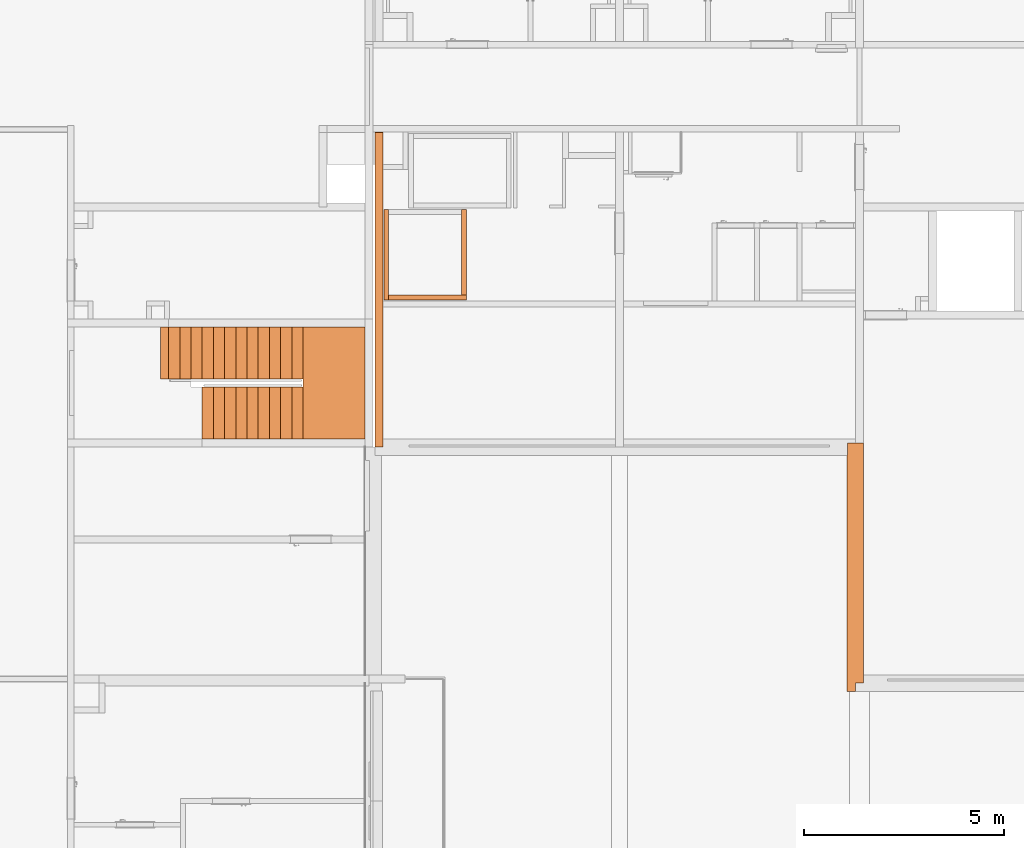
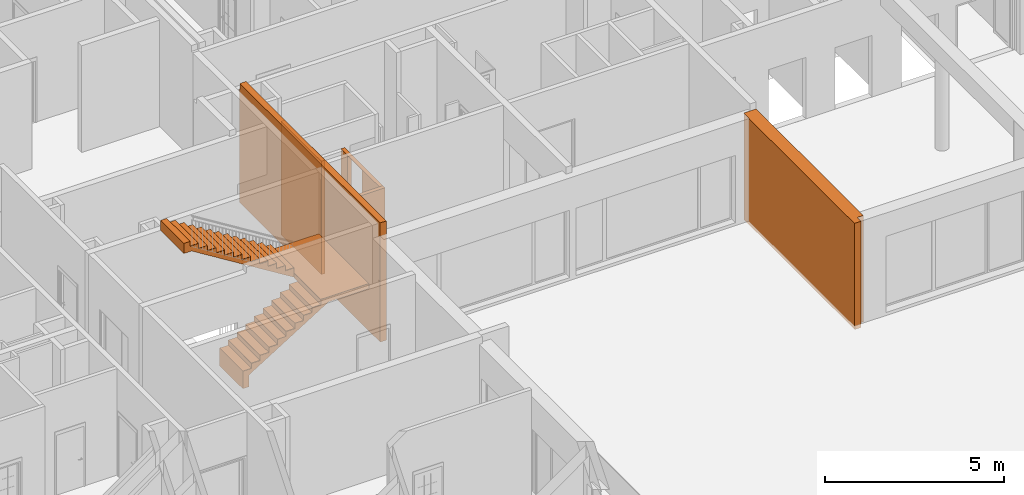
# One storey, part 32 of 46: 6 proxies, 1 opening.
"""IFC2X3 building model written with IfcOpenShell, lengths in millimetres."""

from ifc_helpers import new_model, entity, si_unit, converted_unit, derived_unit, money_unit, direction, frame, origin_with_axes, origin_2d_with_axis, place, context, subcontext, project, spatial, rectangle, extrude, faceted_brep, material, material_list, type_object, element, save


model = new_model("IFC2X3")

# Units and contexts
model_context = context("Model", 3, precision=0.01, world=origin_with_axes(), true_north=direction((0.34421633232, 0.938890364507)))
body_context = subcontext(model_context, "Body", "Model", "MODEL_VIEW")
ifc_project = project(units=[si_unit("LENGTHUNIT", "METRE", prefix="MILLI"), si_unit("AREAUNIT", "SQUARE_METRE"), si_unit("VOLUMEUNIT", "CUBIC_METRE"), converted_unit("PLANEANGLEUNIT", "DEGREE", entity("IfcPlaneAngleMeasure", 0.0174532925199), si_unit("PLANEANGLEUNIT", "RADIAN"), dimensions=[0, 0, 0, 0, 0, 0, 0]), si_unit("SOLIDANGLEUNIT", "STERADIAN"), money_unit("USD"), converted_unit("TIMEUNIT", "Year", entity("IfcTimeMeasure", 31556926.0), si_unit("TIMEUNIT", "SECOND"), dimensions=[0, 0, 1, 0, 0, 0, 0]), si_unit("MASSUNIT", "GRAM", prefix="KILO"), si_unit("THERMODYNAMICTEMPERATUREUNIT", "DEGREE_CELSIUS"), si_unit("LUMINOUSINTENSITYUNIT", "LUMEN"), si_unit("ENERGYUNIT", "JOULE", prefix="MEGA"), derived_unit("THERMALCONDUCTANCEUNIT", [(si_unit("POWERUNIT", "WATT"), 1), (si_unit("LENGTHUNIT", "METRE"), -1), (si_unit("THERMODYNAMICTEMPERATUREUNIT", "KELVIN"), -1)]), derived_unit("SPECIFICHEATCAPACITYUNIT", [(si_unit("ENERGYUNIT", "JOULE"), 1), (si_unit("MASSUNIT", "GRAM", prefix="KILO"), -1), (si_unit("THERMODYNAMICTEMPERATUREUNIT", "KELVIN"), -1)]), derived_unit("MASSDENSITYUNIT", [(si_unit("MASSUNIT", "GRAM", prefix="KILO"), 1), (si_unit("VOLUMEUNIT", "CUBIC_METRE"), -1)])], contexts=[model_context])

# Site, building, storey
site_placement = place(None, origin_with_axes())
site = spatial("IfcSite", under=ifc_project, at=site_placement, Name="USTRONIE MORSKIE", CompositionType="ELEMENT")
building_placement = place(site_placement, origin_with_axes())
building = spatial("IfcBuilding", under=site, at=building_placement, Name="Budynek", CompositionType="ELEMENT")
storey_placement = place(building_placement, origin_with_axes())
storey = spatial("IfcBuildingStorey", under=building, at=storey_placement, Name="PARTER", CompositionType="ELEMENT", Elevation=0.0)

# Proxy, opening
ifc_material_1 = material(Name="Bloczki silikatowe")
building_element_proxy_type_1 = type_object("IfcBuildingElementProxyType", Name="Bloczki silikatowe 120", PredefinedType="NOTDEFINED")
proxy_1_placement = place(storey_placement, frame((369497.920919, 730471.199036, -229.999731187), z_axis=(0.0, 0.0, 1.0), x_axis=(0.0, 1.0, 0.0)))
proxy_1 = element("IfcBuildingElementProxy", 1, at=proxy_1_placement, inside=storey, type_object=building_element_proxy_type_1, material=ifc_material_1, Name="SW-04", context=body_context, shape_type="Brep", body=[
    faceted_brep([(2260.0, 120.0, 0.0), (2260.0, 3.41060513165e-10, 0.0), (120.0, 0.0, 0.0), (120.0, 120.0, 0.0), (2260.0, 120.0, 2249.99973119), (2260.0, 3.41060513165e-10, 2249.99973119), (120.0, 0.0, 2249.99973119), (120.0, 120.0, 2249.99973119)], [[[0, 1, 2, 3]], [[1, 0, 4, 5]], [[1, 5, 6, 2]], [[7, 3, 2, 6]], [[4, 0, 3, 7]], [[5, 4, 7, 6]]]),
])
opening_placement = place(proxy_1_placement, frame((1490.0, -2.27373675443e-10, 229.999731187), z_axis=(0.0, 0.0, 1.0), x_axis=(1.0, 0.0, 0.0)))
element("IfcOpeningElement", 2, at=opening_placement, cuts=proxy_1, Name="xx", context=body_context, shape_type="SweptSolid", body=[
    extrude(rectangle(XDim=800.0, YDim=2000.0, at=origin_2d_with_axis()), frame((0.0, 2.27373675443e-10, 1000.0), z_axis=(0.0, 1.0, 0.0), x_axis=(1.0, 0.0, 0.0)), (0.0, 0.0, -1.0), 120.0),
    extrude(rectangle(XDim=800.0, YDim=2000.0, at=origin_2d_with_axis()), frame((0.0, 2.27373675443e-10, 1000.0), z_axis=(0.0, -1.0, 0.0), x_axis=(1.0, 0.0, 0.0)), (0.0, 0.0, -1.0), 120.0),
])

# Proxies
proxy_2_placement = place(storey_placement, frame((367437.920919, 730471.199036, -229.999731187), z_axis=(0.0, 0.0, 1.0), x_axis=(1.0, 0.0, 0.0)))
element("IfcBuildingElementProxy", 3, at=proxy_2_placement, inside=storey, type_object=building_element_proxy_type_1, material=ifc_material_1, Name="SW-04", context=body_context, shape_type="Brep", body=[
    faceted_brep([(2060.0, 120.000000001, 0.0), (2060.0, 5.68434188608e-10, 0.0), (120.0, 0.0, 0.0), (120.0, 120.0, 0.0), (2060.0, 120.000000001, 2249.99973119), (2060.0, 5.68434188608e-10, 2249.99973119), (120.0, 0.0, 2249.99973119), (120.0, 120.0, 2249.99973119)], [[[0, 1, 2, 3]], [[1, 0, 4, 5]], [[1, 5, 6, 2]], [[7, 3, 2, 6]], [[4, 0, 3, 7]], [[5, 4, 7, 6]]]),
])
proxy_3_placement = place(storey_placement, frame((367437.920919, 732731.199036, -230.0), z_axis=(0.0, 0.0, 1.0), x_axis=(0.0, -1.0, 0.0)))
element("IfcBuildingElementProxy", 4, at=proxy_3_placement, inside=storey, type_object=building_element_proxy_type_1, material=ifc_material_1, Name="SW-04", context=body_context, shape_type="Brep", body=[
    faceted_brep([(2260.0, 120.0, 0.0), (5.68434188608e-10, 120.0, 0.0), (5.68434188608e-10, 120.0, 2250.0), (0.0, 120.0, 3870.0), (2260.0, 120.0, 3870.0), (2260.0, 120.0, 2250.0), (2260.0, 3.97903932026e-10, 0.0), (5.68434188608e-10, 0.0, 0.0), (5.68434188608e-10, 0.0, 2250.0), (0.0, 0.0, 3870.0), (2260.0, 3.97903932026e-10, 3870.0), (2260.0, 3.97903932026e-10, 2250.0)], [[[0, 1, 2, 3, 4, 5]], [[6, 7, 1, 0]], [[7, 8, 2, 1]], [[3, 2, 8, 9]], [[9, 10, 4, 3]], [[10, 11, 5, 4]], [[6, 0, 5, 11]], [[9, 8, 7, 6, 11, 10]]]),
])
ifc_material_2 = material(Name="Beton konstrukcyjny B25")
ifc_material_3 = material(Name="Płytki podłogowe")
ifc_material_list_1 = material_list([ifc_material_2, ifc_material_2, ifc_material_2, ifc_material_3, ifc_material_3, ifc_material_3, ifc_material_3, ifc_material_3, ifc_material_3, ifc_material_3, ifc_material_3, ifc_material_3, ifc_material_3, ifc_material_3, ifc_material_3, ifc_material_3, ifc_material_3, ifc_material_3, ifc_material_3, ifc_material_3, ifc_material_3, ifc_material_3, ifc_material_3, ifc_material_3, ifc_material_3])
building_element_proxy_type_2 = type_object("IfcBuildingElementProxyType", Name="Typ schodów", PredefinedType="NOTDEFINED")
proxy_4_placement = place(storey_placement, frame((362896.181789, 727001.199036, 0.0), z_axis=(0.0, 0.0, 1.0), x_axis=(1.0, 0.0, 0.0)))
element("IfcBuildingElementProxy", 5, at=proxy_4_placement, inside=storey, type_object=building_element_proxy_type_2, material=ifc_material_list_1, Name="SCH2", context=body_context, shape_type="Brep", body=[
    faceted_brep([(2520.0, 1299.99999404, 1550.2173913), (2240.0, 1300.0, 1550.2173913), (2240.0, 0.0, 1550.2173913), (2520.0, 0.0, 1550.2173913), (2520.0, 1299.99999404, 1564.13043478), (2769.83401879, 1299.99999404, 1564.13043478), (2520.0, 1299.99999404, 1408.95401591), (2426.66666667, 1300.0, 1350.98300141), (2333.33333333, 1300.0, 1293.01198692), (2240.0, 1300.0, 1235.04097243), (2146.66666667, 1300.0, 1177.06995793), (2053.33333333, 1300.0, 1119.09894344), (1960.0, 1300.0, 1061.12792895), (1866.66666667, 1300.0, 1003.15691446), (1773.33333333, 1300.0, 945.185899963), (1680.0, 1300.0, 887.214885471), (1586.66666667, 1300.0, 829.243870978), (1493.33333333, 1300.0, 771.272856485), (1400.0, 1300.0, 713.301841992), (1306.66666667, 1300.0, 655.3308275), (1213.33333333, 1300.0, 597.359813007), (1120.0, 1300.0, 539.388798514), (1026.66666667, 1300.0, 481.417784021), (933.333333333, 1300.0, 423.446769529), (840.0, 1300.0, 365.475755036), (746.666666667, 1300.0, 307.504740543), (653.333333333, 1300.0, 249.53372605), (560.0, 1300.0, 191.562711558), (466.666666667, 1300.0, 133.591697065), (373.333333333, 1300.0, 75.620682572), (280.0, 1300.0, 17.6496680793), (200.0, 1300.0, -32.0397729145), (200.0, 1300.0, -430.0), (0.0, 1300.0, -430.0), (0.0, 1300.0, -156.263375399), (0.0, 1300.0, 158.913043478), (280.0, 1300.0, 158.913043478), (280.0, 1300.0, 332.826086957), (560.0, 1300.0, 332.826086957), (560.0, 1300.0, 506.739130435), (840.0, 1300.0, 506.739130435), (840.0, 1300.0, 680.652173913), (1120.0, 1300.0, 680.652173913), (1120.0, 1300.0, 854.565217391), (1400.0, 1300.0, 854.565217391), (1400.0, 1300.0, 1028.47826087), (1680.0, 1300.0, 1028.47826087), (1680.0, 1300.0, 1202.39130435), (1960.0, 1300.0, 1202.39130435), (1960.0, 1300.0, 1376.30434783), (2240.0, 1300.0, 1376.30434783), (2240.0, 0.0, 1376.30434783), (2520.0, 0.0, 1408.95401591), (2769.83401879, 0.0, 1564.13043478), (2520.0, 0.0, 1564.13043478), (1960.0, 0.0, 1376.30434783), (1960.0, 0.0, 1202.39130435), (1680.0, 0.0, 1202.39130435), (1680.0, 0.0, 1028.47826087), (1400.0, 0.0, 1028.47826087), (1400.0, 0.0, 854.565217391), (1120.0, 0.0, 854.565217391), (1120.0, 0.0, 680.652173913), (840.0, 0.0, 680.652173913), (840.0, 0.0, 506.739130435), (560.0, 0.0, 506.739130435), (560.0, 0.0, 332.826086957), (280.0, 0.0, 332.826086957), (280.0, 0.0, 158.913043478), (0.0, 0.0, 158.913043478), (0.0, 0.0, -156.263375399), (0.0, 0.0, -430.0), (200.0, 0.0, -430.0), (200.0, 0.0, -32.0397729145), (280.0, 0.0, 17.6496680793), (373.333333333, 0.0, 75.620682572), (466.666666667, 0.0, 133.591697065), (560.0, 0.0, 191.562711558), (653.333333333, 0.0, 249.53372605), (746.666666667, 0.0, 307.504740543), (840.0, 0.0, 365.475755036), (933.333333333, 0.0, 423.446769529), (1026.66666667, 0.0, 481.417784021), (1120.0, 0.0, 539.388798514), (1213.33333333, 0.0, 597.359813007), (1306.66666667, 0.0, 655.3308275), (1400.0, 0.0, 713.301841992), (1493.33333333, 0.0, 771.272856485), (1586.66666667, 0.0, 829.243870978), (1680.0, 0.0, 887.214885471), (1773.33333333, 0.0, 945.185899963), (1866.66666667, 0.0, 1003.15691446), (1960.0, 0.0, 1061.12792895), (2053.33333333, 0.0, 1119.09894344), (2146.66666667, 0.0, 1177.06995793), (2240.0, 0.0, 1235.04097243), (2333.33333333, 0.0, 1293.01198692), (2426.66666667, 0.0, 1350.98300141)], [[[0, 1, 2, 3]], [[0, 4, 5, 6, 7, 8, 9, 10, 11, 12, 13, 14, 15, 16, 17, 18, 19, 20, 21, 22, 23, 24, 25, 26, 27, 28, 29, 30, 31, 32, 33, 34, 35, 36, 37, 38, 39, 40, 41, 42, 43, 44, 45, 46, 47, 48, 49, 50, 1]], [[50, 51, 2, 1]], [[52, 53, 54, 3, 2, 51, 55, 56, 57, 58, 59, 60, 61, 62, 63, 64, 65, 66, 67, 68, 69, 70, 71, 72, 73, 74, 75, 76, 77, 78, 79, 80, 81, 82, 83, 84, 85, 86, 87, 88, 89, 90, 91, 92, 93, 94, 95, 96, 97]], [[3, 54, 4, 0]], [[54, 53, 5, 4]], [[6, 5, 53, 52, 97, 7]], [[7, 97, 96, 8]], [[8, 96, 95, 9]], [[9, 95, 94, 10]], [[10, 94, 93, 11]], [[11, 93, 92, 12]], [[12, 92, 91, 13]], [[13, 91, 90, 14]], [[14, 90, 89, 15]], [[15, 89, 88, 16]], [[16, 88, 87, 17]], [[17, 87, 86, 18]], [[18, 86, 85, 19]], [[19, 85, 84, 20]], [[20, 84, 83, 21]], [[21, 83, 82, 22]], [[22, 82, 81, 23]], [[23, 81, 80, 24]], [[24, 80, 79, 25]], [[25, 79, 78, 26]], [[26, 78, 77, 27]], [[27, 77, 76, 28]], [[28, 76, 75, 29]], [[29, 75, 74, 30]], [[30, 74, 73, 31]], [[72, 32, 31, 73]], [[72, 71, 33, 32]], [[33, 71, 70, 34]], [[69, 35, 34, 70]], [[68, 36, 35, 69]], [[36, 68, 67, 37]], [[66, 38, 37, 67]], [[38, 66, 65, 39]], [[64, 40, 39, 65]], [[40, 64, 63, 41]], [[62, 42, 41, 63]], [[42, 62, 61, 43]], [[60, 44, 43, 61]], [[44, 60, 59, 45]], [[58, 46, 45, 59]], [[46, 58, 57, 47]], [[56, 48, 47, 57]], [[48, 56, 55, 49]], [[51, 50, 49, 55]]]),
    faceted_brep([(2551.90509143, 1500.00000596, 1724.13043478), (2521.73911022, 1500.00000596, 1724.13043478), (2521.73911022, 1299.99999404, 1724.13043478), (2520.0, 1299.99999404, 1724.13043478), (2520.0, 0.0, 1724.13043478), (4071.73914002, 0.0, 1724.13043478), (4071.73914002, 2800.0, 1724.13043478), (2551.90509143, 2800.0, 1724.13043478), (2551.90509143, 1500.00000596, 1564.13043478), (2521.73911022, 1500.00000596, 1564.13043478), (2521.73911022, 1299.99999404, 1564.13043478), (2520.0, 1299.99999404, 1564.13043478), (2520.0, 0.0, 1564.13043478), (4071.73914002, 0.0, 1564.13043478), (4071.73914002, 2800.0, 1564.13043478), (2551.90509143, 2800.0, 1564.13043478)], [[[0, 1, 2, 3, 4, 5, 6, 7]], [[0, 8, 9, 1]], [[9, 10, 2, 1]], [[3, 2, 10, 11]], [[4, 3, 11, 12]], [[5, 4, 12, 13]], [[6, 5, 13, 14]], [[7, 6, 14, 15]], [[7, 15, 8, 0]], [[8, 15, 14, 13, 12, 11, 10, 9]]]),
    faceted_brep([(-744.927536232, 2800.0, 3611.85256663), (-744.927536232, 1500.0, 3611.85256663), (-790.244903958, 1500.0, 3640.0), (-790.244903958, 2800.0, 3640.0), (-651.594202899, 1500.0, 3553.88155214), (-651.594202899, 2800.0, 3553.88155214), (-558.260869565, 1500.0, 3495.91053764), (-464.927536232, 1500.0, 3437.93952315), (-371.594202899, 1500.0, 3379.96850866), (-278.260869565, 1500.0, 3321.99749417), (-184.927536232, 1500.0, 3264.02647967), (-91.5942028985, 1500.0, 3206.05546518), (1.73913043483, 1500.0, 3148.08445069), (95.0724637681, 1500.0, 3090.1134362), (188.405797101, 1500.0, 3032.1424217), (281.739130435, 1500.0, 2974.17140721), (375.072463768, 1500.0, 2916.20039272), (468.405797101, 1500.0, 2858.22937822), (561.739130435, 1500.0, 2800.25836373), (655.072463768, 1500.0, 2742.28734924), (748.405797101, 1500.0, 2684.31633475), (841.739130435, 1500.0, 2626.34532025), (935.072463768, 1500.0, 2568.37430576), (1028.4057971, 1500.0, 2510.40329127), (1121.73913043, 1500.0, 2452.43227677), (1215.07246377, 1500.0, 2394.46126228), (1308.4057971, 1500.0, 2336.49024779), (1401.73913043, 1500.0, 2278.5192333), (1495.07246377, 1500.0, 2220.5482188), (1588.4057971, 1500.0, 2162.57720431), (1681.73913043, 1500.0, 2104.60618982), (1775.07246377, 1500.0, 2046.63517532), (1868.4057971, 1500.0, 1988.66416083), (1961.73913043, 1500.0, 1930.69314632), (2055.07246377, 1500.0, 1872.72213178), (2148.4057971, 1500.0, 1814.75111723), (2241.73913043, 1500.0, 1756.78010265), (2335.07246327, 1500.0, 1698.80908826), (2428.40579611, 1500.0, 1640.83807383), (2521.73911022, 1500.00000596, 1582.86707101), (2551.90509143, 1500.00000596, 1564.13043672), (2551.90509143, 1500.00000596, 1724.13043478), (2521.73911022, 1500.00000596, 1724.13043478), (2521.73912894, 1500.0, 1898.04347826), (2241.73913043, 1500.0, 1898.04347826), (2241.73913043, 1500.0, 2071.95652174), (1961.73913043, 1500.0, 2071.95652174), (1961.73913043, 1500.0, 2245.86956522), (1681.73913043, 1500.0, 2245.86956522), (1681.73913043, 1500.0, 2419.7826087), (1401.73913043, 1500.0, 2419.7826087), (1401.73913043, 1500.0, 2593.69565217), (1121.73913043, 1500.0, 2593.69565217), (1121.73913043, 1500.0, 2767.60869565), (841.739130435, 1500.0, 2767.60869565), (841.739130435, 1500.0, 2941.52173913), (561.739130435, 1500.0, 2941.52173913), (561.739130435, 1500.0, 3115.43478261), (281.739130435, 1500.0, 3115.43478261), (281.739130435, 1500.0, 3289.34782609), (1.73913043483, 1500.0, 3289.34782609), (1.73913043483, 1500.0, 3463.26086957), (-278.260869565, 1500.0, 3463.26086957), (-278.260869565, 1500.0, 3637.17391304), (-558.260869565, 1500.0, 3637.17391304), (-558.260869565, 1500.0, 3811.08695652), (-838.260869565, 1500.0, 3811.08695652), (-838.260869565, 1500.0, 3985.0), (-1038.26086957, 1500.0, 3985.0), (-1038.26086957, 1500.0, 3640.0), (-1038.26086957, 2800.0, 3640.0), (-1038.26086957, 2800.0, 3985.0), (-838.260869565, 2800.0, 3985.0), (-838.260869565, 2800.0, 3811.08695652), (-558.260869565, 2800.0, 3811.08695652), (-558.260869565, 2800.0, 3637.17391304), (-278.260869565, 2800.0, 3637.17391304), (-278.260869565, 2800.0, 3463.26086957), (1.73913043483, 2800.0, 3463.26086957), (1.73913043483, 2800.0, 3289.34782609), (281.739130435, 2800.0, 3289.34782609), (281.739130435, 2800.0, 3115.43478261), (561.739130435, 2800.0, 3115.43478261), (561.739130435, 2800.0, 2941.52173913), (841.739130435, 2800.0, 2941.52173913), (841.739130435, 2800.0, 2767.60869565), (1121.73913043, 2800.0, 2767.60869565), (1121.73913043, 2800.0, 2593.69565217), (1401.73913043, 2800.0, 2593.69565217), (1401.73913043, 2800.0, 2419.7826087), (1681.73913043, 2800.0, 2419.7826087), (1681.73913043, 2800.0, 2245.86956522), (1961.73913043, 2800.0, 2245.86956522), (1961.73913043, 2800.0, 2071.95652174), (2241.73913043, 2800.0, 2071.95652174), (2241.73913043, 2800.0, 1898.04347826), (2521.73912894, 2800.0, 1898.04347826), (2521.73911022, 2800.0, 1724.13043478), (2551.90509143, 2800.0, 1724.13043478), (2551.90509143, 2800.0, 1564.13043672), (2521.73911022, 2800.0, 1582.86707101), (2428.40579611, 2800.0, 1640.83807383), (2335.07246327, 2800.0, 1698.80908826), (2241.73913043, 2800.0, 1756.78010265), (2148.4057971, 2800.0, 1814.75111723), (2055.07246377, 2800.0, 1872.72213178), (1961.73913043, 2800.0, 1930.69314632), (1868.4057971, 2800.0, 1988.66416083), (1775.07246377, 2800.0, 2046.63517532), (1681.73913043, 2800.0, 2104.60618982), (1588.4057971, 2800.0, 2162.57720431), (1495.07246377, 2800.0, 2220.5482188), (1401.73913043, 2800.0, 2278.5192333), (1308.4057971, 2800.0, 2336.49024779), (1215.07246377, 2800.0, 2394.46126228), (1121.73913043, 2800.0, 2452.43227677), (1028.4057971, 2800.0, 2510.40329127), (935.072463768, 2800.0, 2568.37430576), (841.739130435, 2800.0, 2626.34532025), (748.405797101, 2800.0, 2684.31633475), (655.072463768, 2800.0, 2742.28734924), (561.739130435, 2800.0, 2800.25836373), (468.405797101, 2800.0, 2858.22937822), (375.072463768, 2800.0, 2916.20039272), (281.739130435, 2800.0, 2974.17140721), (188.405797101, 2800.0, 3032.1424217), (95.0724637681, 2800.0, 3090.1134362), (1.73913043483, 2800.0, 3148.08445069), (-91.5942028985, 2800.0, 3206.05546518), (-184.927536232, 2800.0, 3264.02647967), (-278.260869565, 2800.0, 3321.99749417), (-371.594202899, 2800.0, 3379.96850866), (-464.927536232, 2800.0, 3437.93952315), (-558.260869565, 2800.0, 3495.91053764)], [[[0, 1, 2, 3]], [[4, 1, 0, 5]], [[1, 4, 6, 7, 8, 9, 10, 11, 12, 13, 14, 15, 16, 17, 18, 19, 20, 21, 22, 23, 24, 25, 26, 27, 28, 29, 30, 31, 32, 33, 34, 35, 36, 37, 38, 39, 40, 41, 42, 43, 44, 45, 46, 47, 48, 49, 50, 51, 52, 53, 54, 55, 56, 57, 58, 59, 60, 61, 62, 63, 64, 65, 66, 67, 68, 69, 2]], [[69, 70, 3, 2]], [[70, 71, 72, 73, 74, 75, 76, 77, 78, 79, 80, 81, 82, 83, 84, 85, 86, 87, 88, 89, 90, 91, 92, 93, 94, 95, 96, 97, 98, 99, 100, 101, 102, 103, 104, 105, 106, 107, 108, 109, 110, 111, 112, 113, 114, 115, 116, 117, 118, 119, 120, 121, 122, 123, 124, 125, 126, 127, 128, 129, 130, 131, 132, 133, 5, 0, 3]], [[6, 4, 5, 133]], [[7, 6, 133, 132]], [[8, 7, 132, 131]], [[9, 8, 131, 130]], [[10, 9, 130, 129]], [[11, 10, 129, 128]], [[12, 11, 128, 127]], [[13, 12, 127, 126]], [[14, 13, 126, 125]], [[15, 14, 125, 124]], [[16, 15, 124, 123]], [[17, 16, 123, 122]], [[18, 17, 122, 121]], [[19, 18, 121, 120]], [[20, 19, 120, 119]], [[21, 20, 119, 118]], [[22, 21, 118, 117]], [[23, 22, 117, 116]], [[24, 23, 116, 115]], [[25, 24, 115, 114]], [[26, 25, 114, 113]], [[27, 26, 113, 112]], [[28, 27, 112, 111]], [[29, 28, 111, 110]], [[30, 29, 110, 109]], [[31, 30, 109, 108]], [[32, 31, 108, 107]], [[33, 32, 107, 106]], [[34, 33, 106, 105]], [[35, 34, 105, 104]], [[36, 35, 104, 103]], [[37, 36, 103, 102]], [[38, 37, 102, 101]], [[101, 100, 39, 38]], [[40, 39, 100, 99]], [[98, 41, 40, 99]], [[98, 97, 42, 41]], [[43, 42, 97, 96]], [[44, 43, 96, 95]], [[95, 94, 45, 44]], [[46, 45, 94, 93]], [[93, 92, 47, 46]], [[48, 47, 92, 91]], [[91, 90, 49, 48]], [[50, 49, 90, 89]], [[89, 88, 51, 50]], [[52, 51, 88, 87]], [[87, 86, 53, 52]], [[54, 53, 86, 85]], [[85, 84, 55, 54]], [[56, 55, 84, 83]], [[83, 82, 57, 56]], [[58, 57, 82, 81]], [[81, 80, 59, 58]], [[60, 59, 80, 79]], [[79, 78, 61, 60]], [[62, 61, 78, 77]], [[77, 76, 63, 62]], [[64, 63, 76, 75]], [[75, 74, 65, 64]], [[65, 74, 73, 66]], [[72, 67, 66, 73]], [[72, 71, 68, 67]], [[70, 69, 68, 71]]]),
    faceted_brep([(0.0, 0.0, 163.913043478), (0.0, 0.0, 173.913043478), (0.0, 1300.0, 173.913043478), (0.0, 1300.0, 163.913043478), (280.0, 0.0, 163.913043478), (280.0, 0.0, 173.913043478), (280.0, 1300.0, 173.913043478), (280.0, 1300.0, 163.913043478)], [[[0, 1, 2, 3]], [[4, 5, 1, 0]], [[1, 5, 6, 2]], [[3, 2, 6, 7]], [[0, 3, 7, 4]], [[7, 6, 5, 4]]]),
    faceted_brep([(280.0, 0.0, 337.826086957), (280.0, 0.0, 347.826086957), (280.0, 1300.0, 347.826086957), (280.0, 1300.0, 337.826086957), (560.0, 0.0, 337.826086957), (560.0, 0.0, 347.826086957), (560.0, 1300.0, 347.826086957), (560.0, 1300.0, 337.826086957)], [[[0, 1, 2, 3]], [[4, 5, 1, 0]], [[1, 5, 6, 2]], [[3, 2, 6, 7]], [[0, 3, 7, 4]], [[7, 6, 5, 4]]]),
    faceted_brep([(560.0, 0.0, 511.739130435), (560.0, 0.0, 521.739130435), (560.0, 1300.0, 521.739130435), (560.0, 1300.0, 511.739130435), (840.0, 0.0, 511.739130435), (840.0, 0.0, 521.739130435), (840.0, 1300.0, 521.739130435), (840.0, 1300.0, 511.739130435)], [[[0, 1, 2, 3]], [[4, 5, 1, 0]], [[1, 5, 6, 2]], [[3, 2, 6, 7]], [[0, 3, 7, 4]], [[7, 6, 5, 4]]]),
    faceted_brep([(840.0, 0.0, 685.652173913), (840.0, 0.0, 695.652173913), (840.0, 1300.0, 695.652173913), (840.0, 1300.0, 685.652173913), (1120.0, 0.0, 685.652173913), (1120.0, 0.0, 695.652173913), (1120.0, 1300.0, 695.652173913), (1120.0, 1300.0, 685.652173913)], [[[0, 1, 2, 3]], [[4, 5, 1, 0]], [[1, 5, 6, 2]], [[3, 2, 6, 7]], [[0, 3, 7, 4]], [[7, 6, 5, 4]]]),
    faceted_brep([(1120.0, 0.0, 859.565217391), (1120.0, 0.0, 869.565217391), (1120.0, 1300.0, 869.565217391), (1120.0, 1300.0, 859.565217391), (1400.0, 0.0, 859.565217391), (1400.0, 0.0, 869.565217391), (1400.0, 1300.0, 869.565217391), (1400.0, 1300.0, 859.565217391)], [[[0, 1, 2, 3]], [[4, 5, 1, 0]], [[1, 5, 6, 2]], [[3, 2, 6, 7]], [[0, 3, 7, 4]], [[7, 6, 5, 4]]]),
    faceted_brep([(1400.0, 0.0, 1033.47826087), (1400.0, 0.0, 1043.47826087), (1400.0, 1300.0, 1043.47826087), (1400.0, 1300.0, 1033.47826087), (1680.0, 0.0, 1033.47826087), (1680.0, 0.0, 1043.47826087), (1680.0, 1300.0, 1043.47826087), (1680.0, 1300.0, 1033.47826087)], [[[0, 1, 2, 3]], [[4, 5, 1, 0]], [[1, 5, 6, 2]], [[3, 2, 6, 7]], [[0, 3, 7, 4]], [[7, 6, 5, 4]]]),
    faceted_brep([(1680.0, 0.0, 1207.39130435), (1680.0, 0.0, 1217.39130435), (1680.0, 1300.0, 1217.39130435), (1680.0, 1300.0, 1207.39130435), (1960.0, 0.0, 1207.39130435), (1960.0, 0.0, 1217.39130435), (1960.0, 1300.0, 1217.39130435), (1960.0, 1300.0, 1207.39130435)], [[[0, 1, 2, 3]], [[4, 5, 1, 0]], [[1, 5, 6, 2]], [[3, 2, 6, 7]], [[0, 3, 7, 4]], [[7, 6, 5, 4]]]),
    faceted_brep([(1960.0, 0.0, 1381.30434783), (1960.0, 0.0, 1391.30434783), (1960.0, 1300.0, 1391.30434783), (1960.0, 1300.0, 1381.30434783), (2240.0, 0.0, 1381.30434783), (2240.0, 0.0, 1391.30434783), (2240.0, 1300.0, 1391.30434783), (2240.0, 1300.0, 1381.30434783)], [[[0, 1, 2, 3]], [[4, 5, 1, 0]], [[1, 5, 6, 2]], [[3, 2, 6, 7]], [[0, 3, 7, 4]], [[7, 6, 5, 4]]]),
    faceted_brep([(2240.0, 0.0, 1555.2173913), (2240.0, 0.0, 1565.2173913), (2240.0, 1300.0, 1565.2173913), (2240.0, 1300.0, 1555.2173913), (2520.0, 0.0, 1555.2173913), (2520.0, 0.0, 1565.2173913), (2520.0, 1300.0, 1565.2173913), (2520.0, 1300.0, 1555.2173913)], [[[0, 1, 2, 3]], [[4, 5, 1, 0]], [[1, 5, 6, 2]], [[3, 2, 6, 7]], [[0, 3, 7, 4]], [[7, 6, 5, 4]]]),
    faceted_brep([(2520.0, 0.0, 1729.13043478), (2520.0, 0.0, 1739.13043478), (2520.0, 1299.99999404, 1739.13043478), (2520.0, 1299.99999404, 1729.13043478), (2521.73911022, 0.0, 1729.13043478), (2521.73911022, 0.0, 1739.13043478), (4071.73914002, 0.0, 1739.13043478), (4071.73914002, 2800.0, 1739.13043478), (2521.73911022, 2800.0, 1739.13043478), (2521.73911022, 1500.00000596, 1739.13043478), (2521.73911022, 1299.99999404, 1739.13043478), (2521.73911022, 1299.99999404, 1729.13043478), (2521.73911022, 1500.00000596, 1729.13043478), (2521.73911022, 2800.0, 1729.13043478), (4071.73914002, 2800.0, 1729.13043478), (4071.73914002, 0.0, 1729.13043478)], [[[0, 1, 2, 3]], [[4, 5, 1, 0]], [[1, 5, 6, 7, 8, 9, 10, 2]], [[3, 2, 10, 11]], [[0, 3, 11, 12, 13, 14, 15, 4]], [[15, 6, 5, 4]], [[14, 7, 6, 15]], [[13, 8, 7, 14]], [[12, 9, 8, 13]], [[11, 10, 9, 12]]]),
    faceted_brep([(2241.73913043, 2800.0, 1903.04347826), (2241.73913043, 2800.0, 1913.04347826), (2521.73912894, 2800.0, 1913.04347826), (2521.73912894, 2800.0, 1903.04347826), (2241.73913043, 1500.0, 1903.04347826), (2241.73913043, 1500.0, 1913.04347826), (2521.73912894, 1500.0, 1913.04347826), (2521.73912894, 1500.0, 1903.04347826)], [[[0, 1, 2, 3]], [[4, 5, 1, 0]], [[1, 5, 6, 2]], [[3, 2, 6, 7]], [[0, 3, 7, 4]], [[7, 6, 5, 4]]]),
    faceted_brep([(2241.73913043, 2800.0, 2076.95652174), (2241.73913043, 2800.0, 2086.95652174), (2241.73913043, 1500.0, 2086.95652174), (2241.73913043, 1500.0, 2076.95652174), (1961.73913043, 2800.0, 2076.95652174), (1961.73913043, 2800.0, 2086.95652174), (1961.73913043, 1500.0, 2086.95652174), (1961.73913043, 1500.0, 2076.95652174)], [[[0, 1, 2, 3]], [[4, 5, 1, 0]], [[1, 5, 6, 2]], [[3, 2, 6, 7]], [[0, 3, 7, 4]], [[7, 6, 5, 4]]]),
    faceted_brep([(1961.73913043, 2800.0, 2250.86956522), (1961.73913043, 2800.0, 2260.86956522), (1961.73913043, 1500.0, 2260.86956522), (1961.73913043, 1500.0, 2250.86956522), (1681.73913043, 2800.0, 2250.86956522), (1681.73913043, 2800.0, 2260.86956522), (1681.73913043, 1500.0, 2260.86956522), (1681.73913043, 1500.0, 2250.86956522)], [[[0, 1, 2, 3]], [[4, 5, 1, 0]], [[1, 5, 6, 2]], [[3, 2, 6, 7]], [[0, 3, 7, 4]], [[7, 6, 5, 4]]]),
    faceted_brep([(1681.73913043, 2800.0, 2424.7826087), (1681.73913043, 2800.0, 2434.7826087), (1681.73913043, 1500.0, 2434.7826087), (1681.73913043, 1500.0, 2424.7826087), (1401.73913043, 2800.0, 2424.7826087), (1401.73913043, 2800.0, 2434.7826087), (1401.73913043, 1500.0, 2434.7826087), (1401.73913043, 1500.0, 2424.7826087)], [[[0, 1, 2, 3]], [[4, 5, 1, 0]], [[1, 5, 6, 2]], [[3, 2, 6, 7]], [[0, 3, 7, 4]], [[7, 6, 5, 4]]]),
    faceted_brep([(1401.73913043, 2800.0, 2598.69565217), (1401.73913043, 2800.0, 2608.69565217), (1401.73913043, 1500.0, 2608.69565217), (1401.73913043, 1500.0, 2598.69565217), (1121.73913043, 2800.0, 2598.69565217), (1121.73913043, 2800.0, 2608.69565217), (1121.73913043, 1500.0, 2608.69565217), (1121.73913043, 1500.0, 2598.69565217)], [[[0, 1, 2, 3]], [[4, 5, 1, 0]], [[1, 5, 6, 2]], [[3, 2, 6, 7]], [[0, 3, 7, 4]], [[7, 6, 5, 4]]]),
    faceted_brep([(1121.73913043, 2800.0, 2772.60869565), (1121.73913043, 2800.0, 2782.60869565), (1121.73913043, 1500.0, 2782.60869565), (1121.73913043, 1500.0, 2772.60869565), (841.739130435, 2800.0, 2772.60869565), (841.739130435, 2800.0, 2782.60869565), (841.739130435, 1500.0, 2782.60869565), (841.739130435, 1500.0, 2772.60869565)], [[[0, 1, 2, 3]], [[4, 5, 1, 0]], [[1, 5, 6, 2]], [[3, 2, 6, 7]], [[0, 3, 7, 4]], [[7, 6, 5, 4]]]),
    faceted_brep([(841.739130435, 2800.0, 2946.52173913), (841.739130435, 2800.0, 2956.52173913), (841.739130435, 1500.0, 2956.52173913), (841.739130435, 1500.0, 2946.52173913), (561.739130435, 2800.0, 2946.52173913), (561.739130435, 2800.0, 2956.52173913), (561.739130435, 1500.0, 2956.52173913), (561.739130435, 1500.0, 2946.52173913)], [[[0, 1, 2, 3]], [[4, 5, 1, 0]], [[1, 5, 6, 2]], [[3, 2, 6, 7]], [[0, 3, 7, 4]], [[7, 6, 5, 4]]]),
    faceted_brep([(561.739130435, 2800.0, 3120.43478261), (561.739130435, 2800.0, 3130.43478261), (561.739130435, 1500.0, 3130.43478261), (561.739130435, 1500.0, 3120.43478261), (281.739130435, 2800.0, 3120.43478261), (281.739130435, 2800.0, 3130.43478261), (281.739130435, 1500.0, 3130.43478261), (281.739130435, 1500.0, 3120.43478261)], [[[0, 1, 2, 3]], [[4, 5, 1, 0]], [[1, 5, 6, 2]], [[3, 2, 6, 7]], [[0, 3, 7, 4]], [[7, 6, 5, 4]]]),
    faceted_brep([(281.739130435, 2800.0, 3294.34782609), (281.739130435, 2800.0, 3304.34782609), (281.739130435, 1500.0, 3304.34782609), (281.739130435, 1500.0, 3294.34782609), (1.73913043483, 2800.0, 3294.34782609), (1.73913043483, 2800.0, 3304.34782609), (1.73913043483, 1500.0, 3304.34782609), (1.73913043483, 1500.0, 3294.34782609)], [[[0, 1, 2, 3]], [[4, 5, 1, 0]], [[1, 5, 6, 2]], [[3, 2, 6, 7]], [[0, 3, 7, 4]], [[7, 6, 5, 4]]]),
    faceted_brep([(1.73913043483, 2800.0, 3468.26086957), (1.73913043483, 2800.0, 3478.26086957), (1.73913043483, 1500.0, 3478.26086957), (1.73913043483, 1500.0, 3468.26086957), (-278.260869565, 2800.0, 3468.26086957), (-278.260869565, 2800.0, 3478.26086957), (-278.260869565, 1500.0, 3478.26086957), (-278.260869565, 1500.0, 3468.26086957)], [[[0, 1, 2, 3]], [[4, 5, 1, 0]], [[1, 5, 6, 2]], [[3, 2, 6, 7]], [[0, 3, 7, 4]], [[7, 6, 5, 4]]]),
    faceted_brep([(-278.260869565, 2800.0, 3642.17391304), (-278.260869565, 2800.0, 3652.17391304), (-278.260869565, 1500.0, 3652.17391304), (-278.260869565, 1500.0, 3642.17391304), (-558.260869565, 2800.0, 3642.17391304), (-558.260869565, 2800.0, 3652.17391304), (-558.260869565, 1500.0, 3652.17391304), (-558.260869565, 1500.0, 3642.17391304)], [[[0, 1, 2, 3]], [[4, 5, 1, 0]], [[1, 5, 6, 2]], [[3, 2, 6, 7]], [[0, 3, 7, 4]], [[7, 6, 5, 4]]]),
    faceted_brep([(-558.260869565, 2800.0, 3816.08695652), (-558.260869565, 2800.0, 3826.08695652), (-558.260869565, 1500.0, 3826.08695652), (-558.260869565, 1500.0, 3816.08695652), (-838.260869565, 2800.0, 3816.08695652), (-838.260869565, 2800.0, 3826.08695652), (-838.260869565, 1500.0, 3826.08695652), (-838.260869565, 1500.0, 3816.08695652)], [[[0, 1, 2, 3]], [[4, 5, 1, 0]], [[1, 5, 6, 2]], [[3, 2, 6, 7]], [[0, 3, 7, 4]], [[7, 6, 5, 4]]]),
])
building_element_proxy_type_3 = type_object("IfcBuildingElementProxyType", Name="Beton konstrukcyjny B25 200", PredefinedType="NOTDEFINED")
proxy_5_placement = place(storey_placement, frame((367317.920919, 726901.199036, -230.0), z_axis=(0.0, 0.0, 1.0), x_axis=(0.0, 1.0, 0.0)))
element("IfcBuildingElementProxy", 6, at=proxy_5_placement, inside=storey, type_object=building_element_proxy_type_3, material=ifc_material_2, Name="SW-01", context=body_context, shape_type="Brep", body=[
    faceted_brep([(7770.0, 100.0, 0.000264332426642), (7770.0, 100.0, 3870.0), (7770.00000001, -100.009248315, 3870.0), (7770.0, -100.0, 0.000264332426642), (7750.0, 99.9999982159, 4070.0), (7750.0, 100.0, 3870.0), (-100.0, 100.0, 0.0), (-100.0, 99.9998581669, 4070.0), (7750.0, -100.000021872, 3870.0), (7750.0, -100.000021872, 4070.0), (-100.0, -100.0, 4070.0), (-100.0, -100.0, 0.0)], [[[0, 1, 2, 3]], [[4, 5, 1, 0, 6, 7]], [[5, 8, 2, 1]], [[2, 8, 9, 10, 11, 3]], [[11, 6, 0, 3]], [[5, 4, 9, 8]], [[6, 11, 10, 7]], [[10, 9, 4, 7]]]),
])
ifc_material_4 = material(Name="Wełna ELEW wysoki priorytet")
ifc_material_5 = material(Name="Tynk zewnętrzny")
ifc_material_list_2 = material_list([ifc_material_2, ifc_material_4, ifc_material_5])
building_element_proxy_type_4 = type_object("IfcBuildingElementProxyType", Name="20+20 HP 410", PredefinedType="NOTDEFINED")
proxy_6_placement = place(storey_placement, frame((379317.920919, 726901.199036, -230.0), z_axis=(0.0, 0.0, 1.0), x_axis=(0.0, -1.0, 0.0)))
element("IfcBuildingElementProxy", 7, at=proxy_6_placement, inside=storey, type_object=building_element_proxy_type_4, material=ifc_material_list_2, Name="SZ-01", context=body_context, shape_type="Brep", body=[
    faceted_brep([(0.0, -100.0, 0.0), (0.0, 100.0, 0.0), (6000.0, 100.0, 0.0), (6000.0, -100.0, 0.0), (0.0, -100.0, 3630.0), (0.0, 100.0, 3630.0), (6000.0, 100.0, 3630.0), (6000.0, -100.0, 3630.0)], [[[0, 1, 2, 3]], [[4, 5, 1, 0]], [[1, 5, 6, 2]], [[7, 3, 2, 6]], [[4, 0, 3, 7]], [[5, 4, 7, 6]]]),
    faceted_brep([(0.0, -300.0, 0.0), (0.0, -100.0, 0.0), (6210.0, -100.0, 0.0), (6210.0, -300.0, 0.0), (0.0, -300.0, 3630.0), (0.0, -100.0, 3630.0), (6210.0, -100.0, 3630.0), (6210.0, -300.0, 3630.0)], [[[0, 1, 2, 3]], [[4, 5, 1, 0]], [[1, 5, 6, 2]], [[7, 3, 2, 6]], [[4, 0, 3, 7]], [[5, 4, 7, 6]]]),
    faceted_brep([(6210.0, -300.0, 130.0), (300.0, -300.0, 130.0), (300.0, -300.0, 3630.0), (6210.0, -300.0, 3630.0), (300.0, -310.0, 130.0), (6210.0, -310.0, 130.0), (300.0, -310.0, 3630.0), (6210.0, -310.0, 3630.0)], [[[0, 1, 2, 3]], [[4, 1, 0, 5]], [[1, 4, 6, 2]], [[3, 2, 6, 7]], [[5, 0, 3, 7]], [[4, 5, 7, 6]]]),
])

save(model, "model.ifc")
